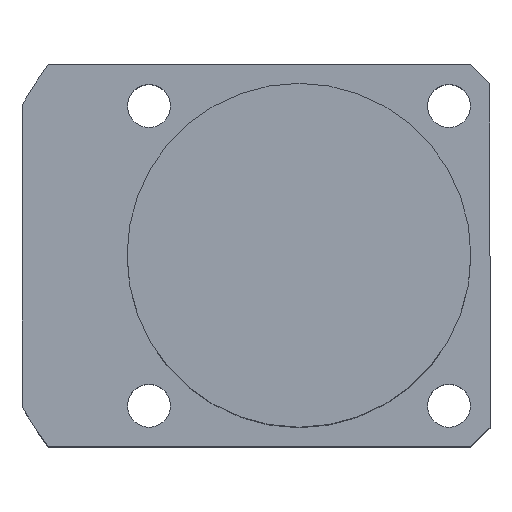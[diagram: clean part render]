
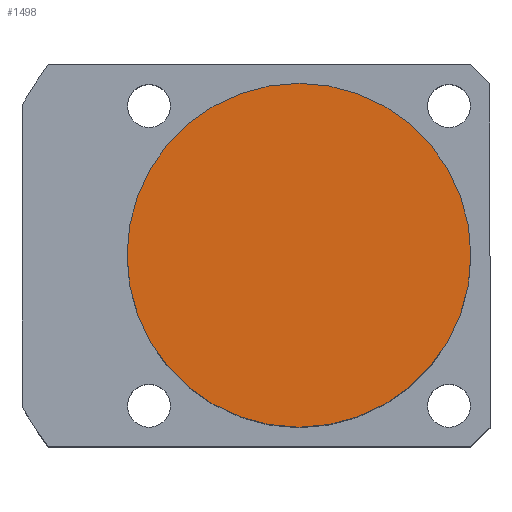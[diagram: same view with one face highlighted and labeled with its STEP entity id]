
A CAD part, top view. The second image highlights one B-rep face of the part: STEP entity #1498.
In plain terms, the highlighted planar face has unit normal (0, 0, 1).
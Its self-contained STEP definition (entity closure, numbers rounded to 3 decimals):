
#78 = EDGE_CURVE ( 'NONE', #524, #1003, #562, .T. ) ;
#323 = AXIS2_PLACEMENT_3D ( 'NONE', #735, #720, #875 ) ;
#520 = DIRECTION ( 'NONE',  ( 1., 0., 0. ) ) ;
#524 = VERTEX_POINT ( 'NONE', #884 ) ;
#533 = AXIS2_PLACEMENT_3D ( 'NONE', #744, #877, #1451 ) ;
#562 = CIRCLE ( 'NONE', #1292, 18. ) ;
#596 = ORIENTED_EDGE ( 'NONE', *, *, #888, .T. ) ;
#623 = CARTESIAN_POINT ( 'NONE',  ( 18., 0., 43.5 ) ) ;
#667 = DIRECTION ( 'NONE',  ( 0., 0., 1. ) ) ;
#720 = DIRECTION ( 'NONE',  ( 0., 0., 1. ) ) ;
#735 = CARTESIAN_POINT ( 'NONE',  ( 0., 0., 43.5 ) ) ;
#741 = EDGE_LOOP ( 'NONE', ( #1150, #596 ) ) ;
#744 = CARTESIAN_POINT ( 'NONE',  ( 0., 0., 43.5 ) ) ;
#807 = FACE_OUTER_BOUND ( 'NONE', #741, .T. ) ;
#875 = DIRECTION ( 'NONE',  ( 1., 0., 0. ) ) ;
#877 = DIRECTION ( 'NONE',  ( 0., 0., 1. ) ) ;
#884 = CARTESIAN_POINT ( 'NONE',  ( -18., 0., 43.5 ) ) ;
#888 = EDGE_CURVE ( 'NONE', #1003, #524, #1743, .T. ) ;
#1003 = VERTEX_POINT ( 'NONE', #623 ) ;
#1150 = ORIENTED_EDGE ( 'NONE', *, *, #78, .T. ) ;
#1154 = PLANE ( 'NONE',  #323 ) ;
#1292 = AXIS2_PLACEMENT_3D ( 'NONE', #1362, #667, #520 ) ;
#1362 = CARTESIAN_POINT ( 'NONE',  ( 0., 0., 43.5 ) ) ;
#1451 = DIRECTION ( 'NONE',  ( 1., 0., 0. ) ) ;
#1498 = ADVANCED_FACE ( 'NONE', ( #807 ), #1154, .T. ) ;
#1743 = CIRCLE ( 'NONE', #533, 18. ) ;
